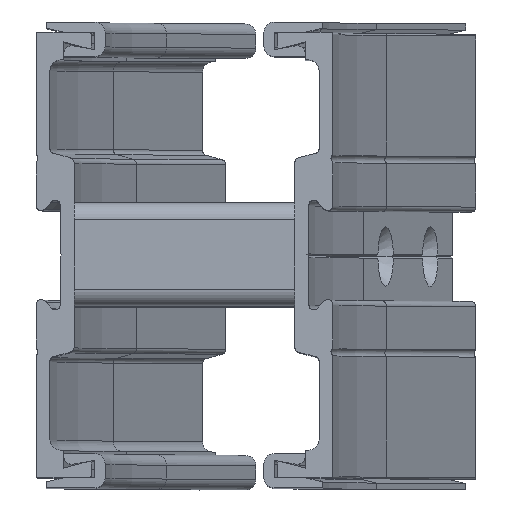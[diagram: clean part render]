
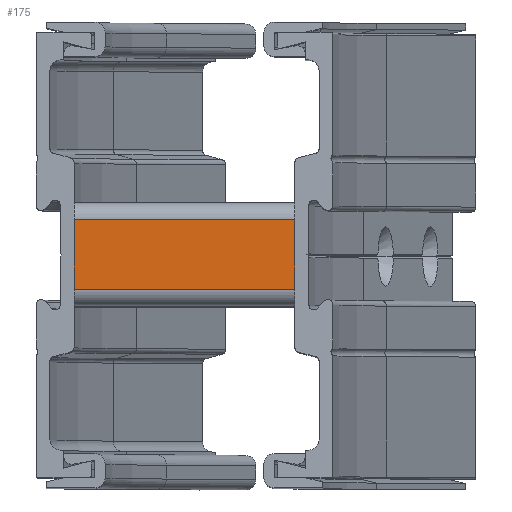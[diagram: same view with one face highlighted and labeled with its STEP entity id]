
A CAD part, top view. The second image highlights one B-rep face of the part: STEP entity #175.
In plain terms, the highlighted planar face has unit normal (0, 0, 1).
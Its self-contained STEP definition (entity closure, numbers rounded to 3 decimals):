
#175 = ADVANCED_FACE ( 'NONE', ( #3608 ), #2107, .F. ) ;
#996 = EDGE_CURVE ( 'NONE', #4141, #2565, #1155, .T. ) ;
#998 = EDGE_CURVE ( 'NONE', #2565, #2524, #1152, .T. ) ;
#999 = EDGE_CURVE ( 'NONE', #4142, #2524, #1149, .T. ) ;
#1000 = EDGE_CURVE ( 'NONE', #4141, #4142, #1147, .T. ) ;
#1146 = VECTOR ( 'NONE', #15367, 1000. ) ;
#1147 = LINE ( 'NONE', #15370, #1146 ) ;
#1148 = VECTOR ( 'NONE', #15371, 1000. ) ;
#1149 = LINE ( 'NONE', #15373, #1148 ) ;
#1150 = VECTOR ( 'NONE', #15375, 1000. ) ;
#1152 = LINE ( 'NONE', #15376, #1150 ) ;
#1153 = VECTOR ( 'NONE', #15388, 1000. ) ;
#1155 = LINE ( 'NONE', #15389, #1153 ) ;
#2103 = DIRECTION ( 'NONE',  ( 0., -1., 0. ) ) ;
#2105 = DIRECTION ( 'NONE',  ( 0., 0., -1. ) ) ;
#2106 = CARTESIAN_POINT ( 'NONE',  ( -32., 10., 81.75 ) ) ;
#2107 = PLANE ( 'NONE',  #7299 ) ;
#2524 = VERTEX_POINT ( 'NONE', #14771 ) ;
#2565 = VERTEX_POINT ( 'NONE', #14292 ) ;
#3608 = FACE_OUTER_BOUND ( 'NONE', #9910, .T. ) ;
#4141 = VERTEX_POINT ( 'NONE', #14283 ) ;
#4142 = VERTEX_POINT ( 'NONE', #14282 ) ;
#7193 = ORIENTED_EDGE ( 'NONE', *, *, #998, .T. ) ;
#7195 = ORIENTED_EDGE ( 'NONE', *, *, #999, .F. ) ;
#7197 = ORIENTED_EDGE ( 'NONE', *, *, #1000, .F. ) ;
#7198 = ORIENTED_EDGE ( 'NONE', *, *, #996, .T. ) ;
#7299 = AXIS2_PLACEMENT_3D ( 'NONE', #2106, #2105, #2103 ) ;
#9910 = EDGE_LOOP ( 'NONE', ( #7193, #7195, #7197, #7198 ) ) ;
#14282 = CARTESIAN_POINT ( 'NONE',  ( -32., 10., 81.75 ) ) ;
#14283 = CARTESIAN_POINT ( 'NONE',  ( -32., -10., 81.75 ) ) ;
#14292 = CARTESIAN_POINT ( 'NONE',  ( 32., -10., 81.75 ) ) ;
#14771 = CARTESIAN_POINT ( 'NONE',  ( 32., 10., 81.75 ) ) ;
#15367 = DIRECTION ( 'NONE',  ( 0., 1., 0. ) ) ;
#15370 = CARTESIAN_POINT ( 'NONE',  ( -32., 10., 81.75 ) ) ;
#15371 = DIRECTION ( 'NONE',  ( 1., 0., 0. ) ) ;
#15373 = CARTESIAN_POINT ( 'NONE',  ( -32., 10., 81.75 ) ) ;
#15375 = DIRECTION ( 'NONE',  ( 0., 1., 0. ) ) ;
#15376 = CARTESIAN_POINT ( 'NONE',  ( 32., 10., 81.75 ) ) ;
#15388 = DIRECTION ( 'NONE',  ( 1., 0., 0. ) ) ;
#15389 = CARTESIAN_POINT ( 'NONE',  ( -32., -10., 81.75 ) ) ;
